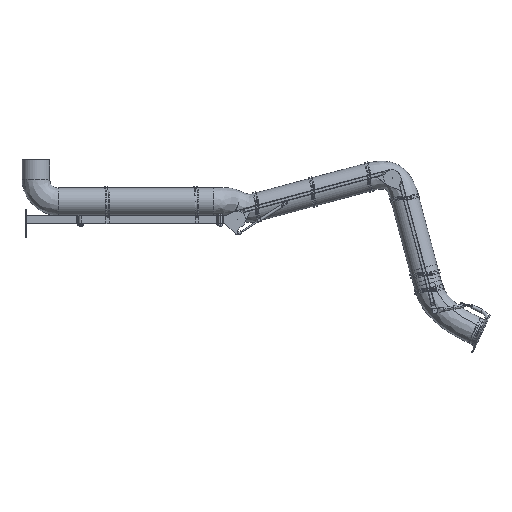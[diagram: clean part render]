
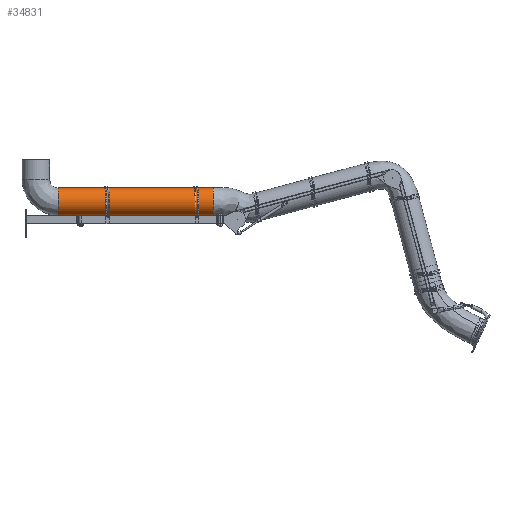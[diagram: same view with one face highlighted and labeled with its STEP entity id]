
A CAD part, top view. The second image highlights one B-rep face of the part: STEP entity #34831.
In plain terms, the highlighted free-form (B-spline) face has degree [3, 3] with [7, 6] control points.
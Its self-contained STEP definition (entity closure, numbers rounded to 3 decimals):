
#32739=CARTESIAN_POINT('',(-172.,128.,0.));
#32740=DIRECTION('',(-1.,0.,0.));
#32741=DIRECTION('',(0.,-0.972,-0.233));
#32742=AXIS2_PLACEMENT_3D('',#32739,#32740,#32741);
#32747=CARTESIAN_POINT('',(-172.,30.759,-23.33));
#32748=CARTESIAN_POINT('',(-295.556,30.759,
-23.33));
#32749=CARTESIAN_POINT('',(-542.667,30.759,
-23.33));
#32750=CARTESIAN_POINT('',(-913.333,30.759,
-23.33));
#32751=CARTESIAN_POINT('',(-1160.444,30.759,
-23.33));
#32752=CARTESIAN_POINT('',(-1284.,30.759,-23.33));
#32765=CARTESIAN_POINT('',(-172.,225.241,23.33));
#32766=CARTESIAN_POINT('',(-295.556,225.241,
23.33));
#32767=CARTESIAN_POINT('',(-542.667,225.241,
23.33));
#32768=CARTESIAN_POINT('',(-913.333,225.241,
23.33));
#32769=CARTESIAN_POINT('',(-1160.444,225.241,
23.33));
#32770=CARTESIAN_POINT('',(-1284.,225.241,23.33));
#32821=CARTESIAN_POINT('',(-1284.,128.,0.));
#32822=DIRECTION('',(-1.,0.,0.));
#32823=DIRECTION('',(0.,-0.972,-0.233));
#32824=AXIS2_PLACEMENT_3D('',#32821,#32822,#32823);
#32952=CARTESIAN_POINT('',(-172.,225.241,23.33));
#32953=CARTESIAN_POINT('',(-172.,30.759,-23.33));
#32954=VERTEX_POINT('',#32952);
#32955=VERTEX_POINT('',#32953);
#32956=CARTESIAN_POINT('',(-1284.,225.241,23.33));
#32957=CARTESIAN_POINT('',(-1284.,30.759,-23.33));
#32958=VERTEX_POINT('',#32956);
#32959=VERTEX_POINT('',#32957);
#34779=CARTESIAN_POINT('',(-149.76,32.416,-29.389));
#34780=CARTESIAN_POINT('',(-157.173,32.416,
-29.389));
#34781=CARTESIAN_POINT('',(-535.253,32.416,
-29.389));
#34782=CARTESIAN_POINT('',(-920.747,32.416,
-29.389));
#34783=CARTESIAN_POINT('',(-1298.827,32.416,
-29.389));
#34784=CARTESIAN_POINT('',(-1306.24,32.416,-29.389));
#34785=CARTESIAN_POINT('',(-149.76,14.33,29.433));
#34786=CARTESIAN_POINT('',(-157.173,14.33,
29.433));
#34787=CARTESIAN_POINT('',(-535.253,14.33,
29.433));
#34788=CARTESIAN_POINT('',(-920.747,14.33,
29.433));
#34789=CARTESIAN_POINT('',(-1298.827,14.33,
29.433));
#34790=CARTESIAN_POINT('',(-1306.24,14.33,29.433));
#34791=CARTESIAN_POINT('',(-149.76,44.829,82.883));
#34792=CARTESIAN_POINT('',(-157.173,44.829,
82.883));
#34793=CARTESIAN_POINT('',(-535.253,44.829,
82.883));
#34794=CARTESIAN_POINT('',(-920.747,44.829,
82.883));
#34795=CARTESIAN_POINT('',(-1298.827,44.829,
82.883));
#34796=CARTESIAN_POINT('',(-1306.24,44.829,82.883));
#34797=CARTESIAN_POINT('',(-149.76,104.67,97.241));
#34798=CARTESIAN_POINT('',(-157.173,104.67,
97.241));
#34799=CARTESIAN_POINT('',(-535.253,104.67,
97.241));
#34800=CARTESIAN_POINT('',(-920.747,104.67,
97.241));
#34801=CARTESIAN_POINT('',(-1298.827,104.67,
97.241));
#34802=CARTESIAN_POINT('',(-1306.24,104.67,97.241));
#34803=CARTESIAN_POINT('',(-149.76,164.512,111.598));
#34804=CARTESIAN_POINT('',(-157.173,164.512,
111.598));
#34805=CARTESIAN_POINT('',(-535.253,164.512,
111.598));
#34806=CARTESIAN_POINT('',(-920.747,164.512,
111.598));
#34807=CARTESIAN_POINT('',(-1298.827,164.512,
111.598));
#34808=CARTESIAN_POINT('',(-1306.24,164.512,111.598));
#34809=CARTESIAN_POINT('',(-149.76,215.942,77.803));
#34810=CARTESIAN_POINT('',(-157.173,215.942,
77.803));
#34811=CARTESIAN_POINT('',(-535.253,215.942,
77.803));
#34812=CARTESIAN_POINT('',(-920.747,215.942,
77.803));
#34813=CARTESIAN_POINT('',(-1298.827,215.942,
77.803));
#34814=CARTESIAN_POINT('',(-1306.24,215.942,77.803));
#34815=CARTESIAN_POINT('',(-149.76,226.514,17.178));
#34816=CARTESIAN_POINT('',(-157.173,226.514,
17.178));
#34817=CARTESIAN_POINT('',(-535.253,226.514,
17.178));
#34818=CARTESIAN_POINT('',(-920.747,226.514,
17.178));
#34819=CARTESIAN_POINT('',(-1298.827,226.514,
17.178));
#34820=CARTESIAN_POINT('',(-1306.24,226.514,17.178));
#34821=(BOUNDED_SURFACE()B_SPLINE_SURFACE(3,3,((#34779,#34780,#34781,#34782,
#34783,#34784),(#34785,#34786,#34787,#34788,#34789,#34790),(#34791,#34792,
#34793,#34794,#34795,#34796),(#34797,#34798,#34799,#34800,#34801,#34802),
(#34803,#34804,#34805,#34806,#34807,#34808),(#34809,#34810,#34811,#34812,#34813,
#34814),(#34815,#34816,#34817,#34818,#34819,#34820)),.UNSPECIFIED.,.F.,.F.,.F.)B_SPLINE_SURFACE_WITH_KNOTS((4,3,4),(4,1,1,4),(0.,1.,2.),(-0.02,0.,1.,
1.02),.UNSPECIFIED.)GEOMETRIC_REPRESENTATION_ITEM()RATIONAL_B_SPLINE_SURFACE((
(1.187,1.187,1.187,1.187,
1.187,1.187),(0.938,0.938,
0.938,0.938,0.938,0.938),(
0.938,0.938,0.938,0.938,
0.938,0.938),(1.187,1.187,
1.187,1.187,1.187,1.187),(
0.938,0.938,0.938,0.938,
0.938,0.938),(0.938,0.938,
0.938,0.938,0.938,0.938),(
1.187,1.187,1.187,1.187,
1.187,1.187)))REPRESENTATION_ITEM('')SURFACE());
#34822=ORIENTED_EDGE('',*,*,#34766,.F.);
#34824=ORIENTED_EDGE('',*,*,#34823,.T.);
#34826=ORIENTED_EDGE('',*,*,#34825,.T.);
#34828=ORIENTED_EDGE('',*,*,#34827,.F.);
#34829=EDGE_LOOP('',(#34822,#34824,#34826,#34828));
#34830=FACE_OUTER_BOUND('',#34829,.F.);
#32743=CIRCLE('',#32742,100.);
#32753=B_SPLINE_CURVE_WITH_KNOTS('',3,(#32747,#32748,#32749,#32750,#32751,
#32752),.UNSPECIFIED.,.F.,.F.,(4,1,1,4),(0.,0.333,
0.667,1.),.UNSPECIFIED.);
#32771=B_SPLINE_CURVE_WITH_KNOTS('',3,(#32765,#32766,#32767,#32768,#32769,
#32770),.UNSPECIFIED.,.F.,.F.,(4,1,1,4),(0.,0.333,
0.667,1.),.UNSPECIFIED.);
#32825=CIRCLE('',#32824,100.);
#34766=EDGE_CURVE('',#32955,#32954,#32743,.T.);
#34823=EDGE_CURVE('',#32955,#32959,#32753,.T.);
#34825=EDGE_CURVE('',#32959,#32958,#32825,.T.);
#34827=EDGE_CURVE('',#32954,#32958,#32771,.T.);
#34831=ADVANCED_FACE('',(#34830),#34821,.T.);
